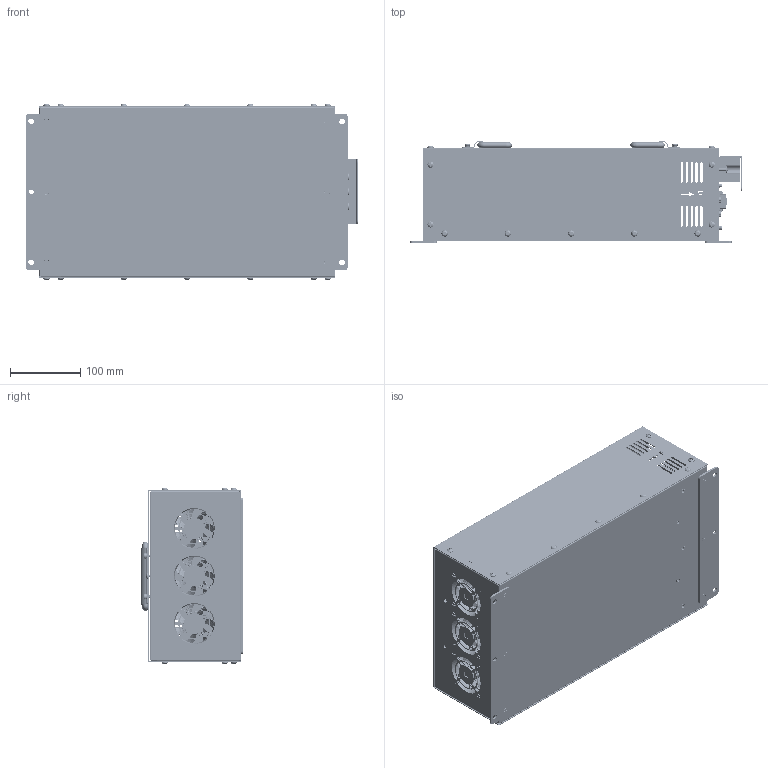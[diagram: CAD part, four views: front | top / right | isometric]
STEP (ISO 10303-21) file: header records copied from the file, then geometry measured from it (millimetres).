
FILE_DESCRIPTION(/* description */ (''),/* implementation_level */ '2;1');
FILE_NAME(/* name */ '',/* time_stamp */ '2026-06-18T13:43:36+09:00',/* author */ ('Administrator'),/* organization */ (''),/* preprocessor_version */ 'ST-DEVELOPER v20.1',/* originating_system */ 'Autodesk Inventor 2026',/* authorisation */ '');
FILE_SCHEMA (('AUTOMOTIVE_DESIGN { 1 0 10303 214 3 1 1 }'));
Products named in the file (1): VX3COM_OLED_21pitch단자대_HANDLE2_2026.06.18_단순화_
1
Bounding box: 471.11 x 145.46 x 250.84 mm (x, y, z)
Volume: 782359.5 mm3; surface area: 969983.5 mm2
Topology: 17 solids, 17 shells, 9240 faces, 24645 edges, 16026 vertices
Faces by surface type: plane 5299, cylinder 2087, bspline 1529, torus 218, cone 76, sphere 31
Full cylindrical faces by diameter (mm): 0.013 x9, 0.6 x3, 0.609 x1, 0.61 x27, 0.635 x9, 0.7 x18, 0.75 x18, 0.85 x3, 0.9 x24, 1 x5, 1.397 x9, 1.5 x4, 2.1 x4, 2.286 x9, 2.5 x4, 2.8 x12, 2.957 x12, 3 x6, 3.048 x4, 3.4 x5, 3.6 x25, 3.783 x2, 3.8 x20, 3.9 x2, 4 x41, 4.3 x12, 4.5 x35, 5 x27, 5.3 x10, 5.4 x6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
Entity records: 329383 total; most frequent: CARTESIAN_POINT 94398, ORIENTED_EDGE 49244, DIRECTION 42648, EDGE_CURVE 24622, VERTEX_POINT 16026, LINE 15646, VECTOR 15646, AXIS2_PLACEMENT_3D 13501
